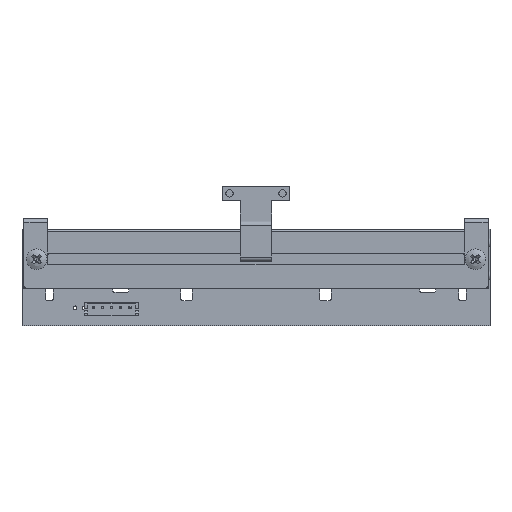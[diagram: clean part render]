
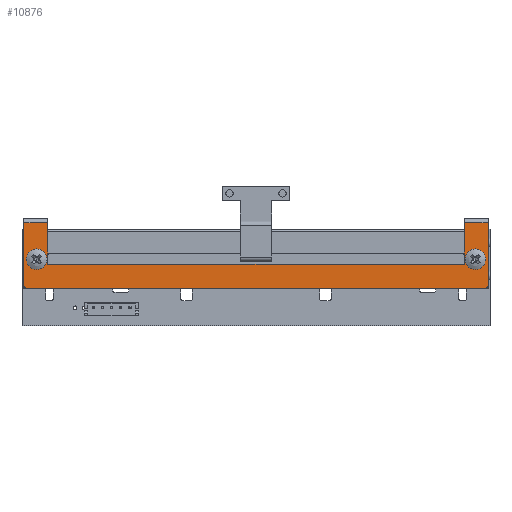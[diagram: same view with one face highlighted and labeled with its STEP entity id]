
A CAD part, front view. The second image highlights one B-rep face of the part: STEP entity #10876.
In plain terms, the highlighted planar face has unit normal (0, -1, 0).
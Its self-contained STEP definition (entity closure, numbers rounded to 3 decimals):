
#7543 = EDGE_CURVE('',#7544,#7546,#7548,.T.);
#7544 = VERTEX_POINT('',#7545);
#7545 = CARTESIAN_POINT('',(-63.5,-4.5,-1.));
#7546 = VERTEX_POINT('',#7547);
#7547 = CARTESIAN_POINT('',(-63.5,-4.5,-18.));
#7548 = LINE('',#7549,#7550);
#7549 = CARTESIAN_POINT('',(-63.5,-4.5,-1.));
#7550 = VECTOR('',#7551,1.);
#7551 = DIRECTION('',(0.,0.,-1.));
#7663 = VERTEX_POINT('',#7664);
#7664 = CARTESIAN_POINT('',(-57.,-4.5,-1.));
#7671 = EDGE_CURVE('',#7672,#7663,#7674,.T.);
#7672 = VERTEX_POINT('',#7673);
#7673 = CARTESIAN_POINT('',(-57.,-4.5,-12.35));
#7674 = LINE('',#7675,#7676);
#7675 = CARTESIAN_POINT('',(-57.,-4.5,-11.175));
#7676 = VECTOR('',#7677,1.);
#7677 = DIRECTION('',(0.,0.,1.));
#7817 = VERTEX_POINT('',#7818);
#7818 = CARTESIAN_POINT('',(57.,-4.5,-12.35));
#7824 = EDGE_CURVE('',#7817,#7825,#7827,.T.);
#7825 = VERTEX_POINT('',#7826);
#7826 = CARTESIAN_POINT('',(57.,-4.5,-1.));
#7827 = LINE('',#7828,#7829);
#7828 = CARTESIAN_POINT('',(57.,-4.5,-11.175));
#7829 = VECTOR('',#7830,1.);
#7830 = DIRECTION('',(0.,0.,1.));
#7900 = EDGE_CURVE('',#7901,#7903,#7905,.T.);
#7901 = VERTEX_POINT('',#7902);
#7902 = CARTESIAN_POINT('',(63.5,-4.5,-18.));
#7903 = VERTEX_POINT('',#7904);
#7904 = CARTESIAN_POINT('',(63.5,-4.5,-1.));
#7905 = LINE('',#7906,#7907);
#7906 = CARTESIAN_POINT('',(63.5,-4.5,-19.));
#7907 = VECTOR('',#7908,1.);
#7908 = DIRECTION('',(0.,0.,1.));
#7949 = EDGE_CURVE('',#7901,#7950,#7952,.T.);
#7950 = VERTEX_POINT('',#7951);
#7951 = CARTESIAN_POINT('',(62.5,-4.5,-19.));
#7952 = CIRCLE('',#7953,1.);
#7953 = AXIS2_PLACEMENT_3D('',#7954,#7955,#7956);
#7954 = CARTESIAN_POINT('',(62.5,-4.5,-18.));
#7955 = DIRECTION('',(0.,1.,0.));
#7956 = DIRECTION('',(0.,0.,1.));
#7974 = EDGE_CURVE('',#7975,#7950,#7977,.T.);
#7975 = VERTEX_POINT('',#7976);
#7976 = CARTESIAN_POINT('',(-62.5,-4.5,-19.));
#7977 = LINE('',#7978,#7979);
#7978 = CARTESIAN_POINT('',(-63.5,-4.5,-19.));
#7979 = VECTOR('',#7980,1.);
#7980 = DIRECTION('',(1.,0.,0.));
#7998 = EDGE_CURVE('',#7975,#7546,#7999,.T.);
#7999 = CIRCLE('',#8000,1.);
#8000 = AXIS2_PLACEMENT_3D('',#8001,#8002,#8003);
#8001 = CARTESIAN_POINT('',(-62.5,-4.5,-18.));
#8002 = DIRECTION('',(0.,1.,0.));
#8003 = DIRECTION('',(0.,0.,1.));
#10876 = ADVANCED_FACE('',(#10877,#10904,#10915),#10926,.T.);
#10877 = FACE_BOUND('',#10878,.T.);
#10878 = EDGE_LOOP('',(#10879,#10880,#10881,#10882,#10883,#10884,#10890,
    #10891,#10897,#10898));
#10879 = ORIENTED_EDGE('',*,*,#7543,.T.);
#10880 = ORIENTED_EDGE('',*,*,#7998,.F.);
#10881 = ORIENTED_EDGE('',*,*,#7974,.T.);
#10882 = ORIENTED_EDGE('',*,*,#7949,.F.);
#10883 = ORIENTED_EDGE('',*,*,#7900,.T.);
#10884 = ORIENTED_EDGE('',*,*,#10885,.T.);
#10885 = EDGE_CURVE('',#7903,#7825,#10886,.T.);
#10886 = LINE('',#10887,#10888);
#10887 = CARTESIAN_POINT('',(63.5,-4.5,-1.));
#10888 = VECTOR('',#10889,1.);
#10889 = DIRECTION('',(-1.,0.,0.));
#10890 = ORIENTED_EDGE('',*,*,#7824,.F.);
#10891 = ORIENTED_EDGE('',*,*,#10892,.T.);
#10892 = EDGE_CURVE('',#7817,#7672,#10893,.T.);
#10893 = LINE('',#10894,#10895);
#10894 = CARTESIAN_POINT('',(-28.5,-4.5,-12.35));
#10895 = VECTOR('',#10896,1.);
#10896 = DIRECTION('',(-1.,0.,0.));
#10897 = ORIENTED_EDGE('',*,*,#7671,.T.);
#10898 = ORIENTED_EDGE('',*,*,#10899,.T.);
#10899 = EDGE_CURVE('',#7663,#7544,#10900,.T.);
#10900 = LINE('',#10901,#10902);
#10901 = CARTESIAN_POINT('',(63.5,-4.5,-1.));
#10902 = VECTOR('',#10903,1.);
#10903 = DIRECTION('',(-1.,0.,0.));
#10904 = FACE_BOUND('',#10905,.T.);
#10905 = EDGE_LOOP('',(#10906));
#10906 = ORIENTED_EDGE('',*,*,#10907,.T.);
#10907 = EDGE_CURVE('',#10908,#10908,#10910,.T.);
#10908 = VERTEX_POINT('',#10909);
#10909 = CARTESIAN_POINT('',(-57.2,-4.5,-11.));
#10910 = CIRCLE('',#10911,2.8);
#10911 = AXIS2_PLACEMENT_3D('',#10912,#10913,#10914);
#10912 = CARTESIAN_POINT('',(-60.,-4.5,-11.));
#10913 = DIRECTION('',(-0.,1.,0.));
#10914 = DIRECTION('',(1.,0.,0.));
#10915 = FACE_BOUND('',#10916,.T.);
#10916 = EDGE_LOOP('',(#10917));
#10917 = ORIENTED_EDGE('',*,*,#10918,.T.);
#10918 = EDGE_CURVE('',#10919,#10919,#10921,.T.);
#10919 = VERTEX_POINT('',#10920);
#10920 = CARTESIAN_POINT('',(62.8,-4.5,-11.));
#10921 = CIRCLE('',#10922,2.8);
#10922 = AXIS2_PLACEMENT_3D('',#10923,#10924,#10925);
#10923 = CARTESIAN_POINT('',(60.,-4.5,-11.));
#10924 = DIRECTION('',(-0.,1.,0.));
#10925 = DIRECTION('',(1.,0.,0.));
#10926 = PLANE('',#10927);
#10927 = AXIS2_PLACEMENT_3D('',#10928,#10929,#10930);
#10928 = CARTESIAN_POINT('',(0.,-4.5,-10.));
#10929 = DIRECTION('',(0.,-1.,0.));
#10930 = DIRECTION('',(1.,0.,0.));
